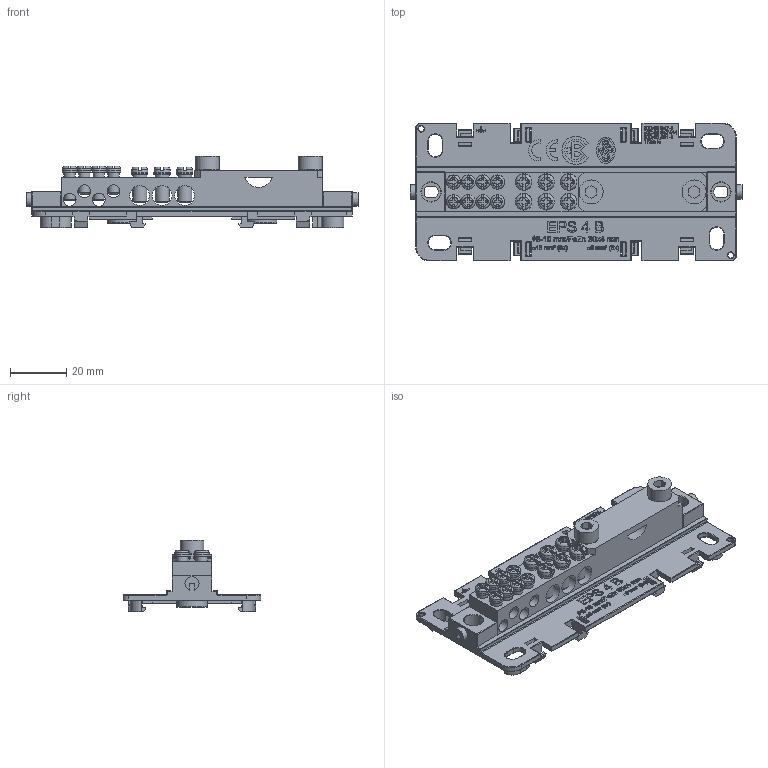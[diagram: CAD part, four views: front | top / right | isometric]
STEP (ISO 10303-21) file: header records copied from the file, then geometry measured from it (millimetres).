
FILE_DESCRIPTION(/* description */ ('Unknown'),/* implementation_level */ '2;1');
FILE_NAME(/* name */ 'EPS 4 B',/* time_stamp */ '2021-07-14T08:02:46+02:00',/* author */ ('Unknown'),/* organization */ ('Unknown'),/* preprocessor_version */ 'ST-DEVELOPER v16.7',/* originating_system */ 'Solid Edge',/* authorisation */ 'Unknown');
FILE_SCHEMA (('AUTOMOTIVE_DESIGN {1 0 10303 214 3 1 1}'));
Products named in the file (1): EPS 4 B
Bounding box: 118 x 49 x 25.5 mm (x, y, z)
Volume: 30118.4 mm3; surface area: 23063.8 mm2
Topology: 1 solids, 9 shells, 1891 faces, 4867 edges, 3133 vertices
Faces by surface type: plane 1226, cylinder 323, bspline 160, torus 136, cone 32, sphere 14
Full cylindrical faces by diameter (mm): 2 x2, 3.242 x2, 4 x16, 4.134 x2, 4.6 x4, 5 x20, 5.1 x8, 5.5 x2, 5.9 x6, 6.8 x2, 7 x3, 8.2 x2, 8.5 x2, 11 x2
Entity records: 76416 total; most frequent: CARTESIAN_POINT 19163, ORIENTED_EDGE 9190, DIRECTION 8353, EDGE_CURVE 4595, LINE 3201, VECTOR 3201, VERTEX_POINT 3074, AXIS2_PLACEMENT_3D 2576
